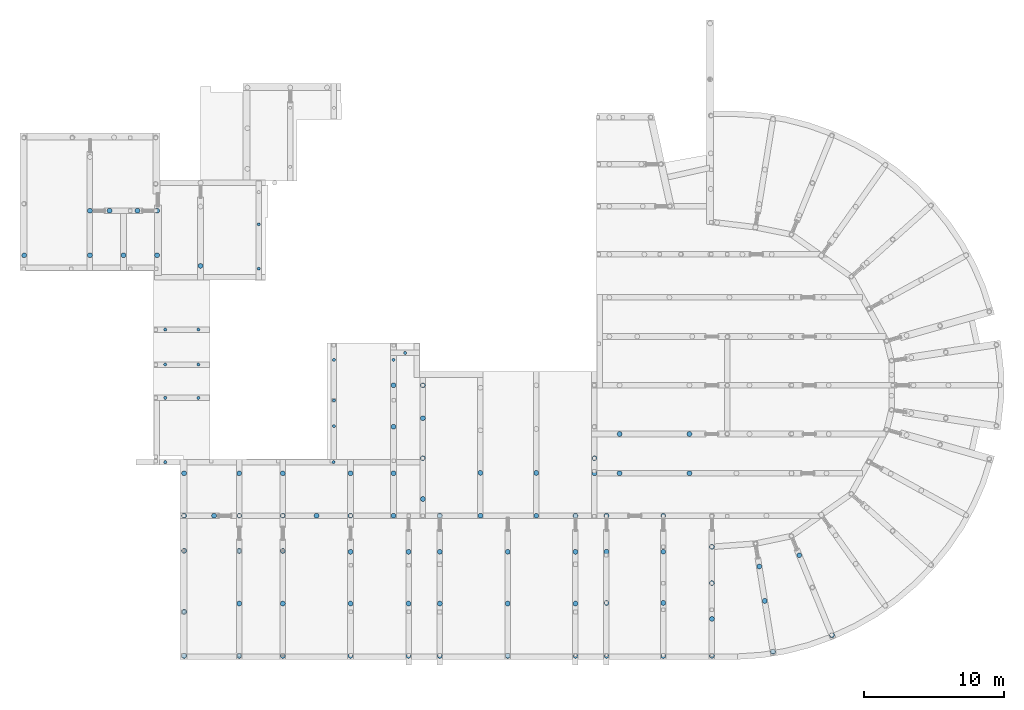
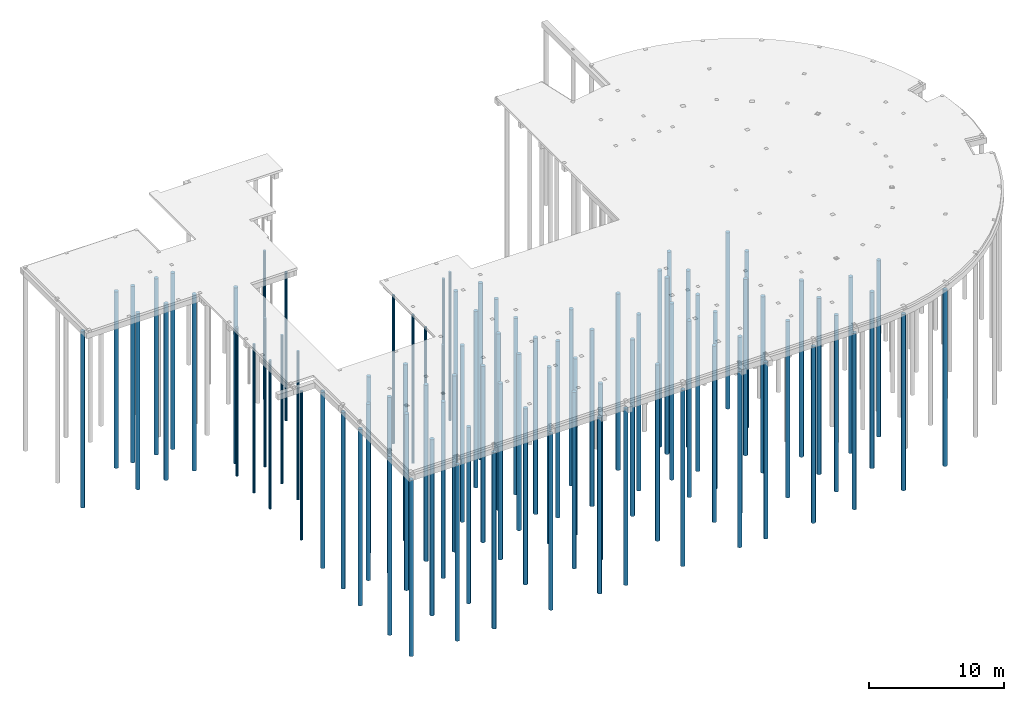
# One storey, part 1 of 22: 95 piles.
"""IFC2X3 building model written with IfcOpenShell, lengths in millimetres."""

from ifc_helpers import new_model, si_unit, frame, origin_with_axes, origin_2d_with_axis, place, context, subcontext, project, spatial, circle, extrude, clip, halfspace, material, element, save


model = new_model("IFC2X3")

# Units and contexts
model_context = context("Model", 3, precision=1e-05, world=origin_with_axes())
body_context = subcontext(model_context, "Body", "Model", "MODEL_VIEW")
ifc_project = project(units=[si_unit("LENGTHUNIT", "METRE", prefix="MILLI"), si_unit("AREAUNIT", "SQUARE_METRE"), si_unit("VOLUMEUNIT", "CUBIC_METRE"), si_unit("MASSUNIT", "GRAM", prefix="KILO"), si_unit("TIMEUNIT", "SECOND"), si_unit("PLANEANGLEUNIT", "RADIAN"), si_unit("SOLIDANGLEUNIT", "STERADIAN"), si_unit("THERMODYNAMICTEMPERATUREUNIT", "DEGREE_CELSIUS"), si_unit("LUMINOUSINTENSITYUNIT", "LUMEN")], contexts=[model_context])

# Site, building, storey
site_placement = place(None, origin_with_axes())
site = spatial("IfcSite", under=ifc_project, at=site_placement, Name="Undefined", CompositionType="ELEMENT")
building_placement = place(site_placement, origin_with_axes())
building = spatial("IfcBuilding", under=site, at=building_placement, Name="Undefined", CompositionType="ELEMENT")
storey_placement = place(building_placement, origin_with_axes())
storey = spatial("IfcBuildingStorey", under=building, at=storey_placement, Name="Undefined", CompositionType="ELEMENT", Elevation=0.0)

# Piles
ifc_material = material(Name="CONCRETE/C28/35(prefab)")
for number, where, z_axis, x_axis in (
    (1, (40940.6663505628, 13316.3922008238, -770.0), (0.0, 1.0, 0.0), (0.0, 0.0, -1.0)),
    (2, (13706.4895711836, 10273.6240965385, -770.0), (1.0, 0.0, 0.0), (0.0, 0.0, -1.0)),
    (3, (7220.94639853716, 28925.9277843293, -770.0), (-2.34999999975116e-06, 0.999999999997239, 0.0), (0.0, 0.0, -1.0)),
    (4, (108.648211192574, 28925.947344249, -770.0), (-1.13299999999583e-06, 0.999999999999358, 0.0), (0.0, 0.0, -1.0)),
    (5, (9625.00076344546, 32118.3665420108, -770.0), (0.0, 1.0, 0.0), (0.0, 0.0, -1.0)),
    (6, (9625.00076344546, 28925.9471468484, -770.0), (0.0, 1.0, 0.0), (0.0, 0.0, -1.0)),
    (7, (4816.92012416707, 28925.9409927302, -770.0), (-1.13299999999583e-06, 0.999999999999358, 0.0), (0.0, 0.0, -1.0)),
    (8, (4816.91618448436, 32115.96276371, -770.0), (-1.13299999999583e-06, 0.999999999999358, 0.0), (0.0, 0.0, -1.0)),
    (9, (6220.96083899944, 32115.9710291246, -770.0), (-0.999999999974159, -7.18899999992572e-06, 0.0), (0.0, 0.0, -1.0)),
    (10, (8220.96083889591, 32115.9854071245, -770.0), (-0.999999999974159, -7.18899999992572e-06, 0.0), (0.0, 0.0, -1.0)),
    (11, (12736.0939629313, 28165.5649974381, -770.0), (0.0, 1.0, 0.0), (0.0, 0.0, -1.0)),
):
    element("IfcPile", number, at=place(storey_placement, frame(where, z_axis=z_axis, x_axis=x_axis)), inside=storey, material=ifc_material, Name="FUNDERINGSPAAL", ConstructionType="NOTDEFINED", PredefinedType="NOTDEFINED", context=body_context, shape_type="Clipping", body=[
        clip(extrude(circle(Radius=175.0, at=origin_2d_with_axis()), frame((15900.0, 0.0, 0.0), z_axis=(-1.0, 0.0, 0.0), x_axis=(0.0, -1.0, 0.0)), (0.0, 0.0, 1.0), 15900.0), halfspace(frame((0.0, 175.0000000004, -175.000000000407), z_axis=(-1.0, 0.0, 0.0), x_axis=(0.0, 0.0, 1.0)), False)),
    ])
for number, where, z_axis, x_axis in (
    (12, (16906.9431428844, 31147.108072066, -770.0), (0.0, 1.0, 0.0), (0.0, 0.0, -1.0)),
    (13, (16906.9433687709, 27965.608072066, -770.0), (0.0, 1.0, 0.0), (0.0, 0.0, -1.0)),
    (14, (12580.0000553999, 23601.4324289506, -770.0), (-1.0, 0.0, 0.0), (0.0, 0.0, -1.0)),
    (15, (10209.9999446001, 23601.4317700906, -770.0), (-1.0, 0.0, 0.0), (0.0, 0.0, -1.0)),
    (16, (12580.0007503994, 21101.4324289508, -770.0), (-1.0, 0.0, 0.0), (0.0, 0.0, -1.0)),
    (17, (10210.0006395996, 21101.4317700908, -770.0), (-1.0, 0.0, 0.0), (0.0, 0.0, -1.0)),
    (18, (12580.0014142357, 18713.5303598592, -770.0), (-1.0, 0.0, 0.0), (0.0, 0.0, -1.0)),
    (19, (10210.0013034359, 18713.5297009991, -770.0), (-1.0, 0.0, 0.0), (0.0, 0.0, -1.0)),
    (20, (10210.0013034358, 14109.7887526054, -770.0), (-1.0, 0.0, 0.0), (0.0, 0.0, -1.0)),
):
    element("IfcPile", number, at=place(storey_placement, frame(where, z_axis=z_axis, x_axis=x_axis)), inside=storey, material=ifc_material, Name="FUNDERINGSPAAL", ConstructionType="NOTDEFINED", PredefinedType="NOTDEFINED", context=body_context, shape_type="Clipping", body=[
        clip(extrude(circle(Radius=109.5, at=origin_2d_with_axis()), frame((13400.0, 0.0, 0.0), z_axis=(-1.0, 0.0, 0.0), x_axis=(0.0, -1.0, 0.0)), (0.0, 0.0, 1.0), 13400.0), halfspace(frame((0.0, 109.500000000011, -109.500000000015), z_axis=(-1.0, 0.0, 0.0), x_axis=(0.0, 0.0, 1.0)), False)),
    ])
for number, where, z_axis, x_axis in (
    (21, (11561.5104842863, 3388.39862614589, -770.0), (0.0, -1.0, 0.0), (0.0, 0.0, -1.0)),
    (22, (11561.5104842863, 236.121540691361, -770.0), (0.0, -1.0, 0.0), (0.0, 0.0, -1.0)),
    (23, (11561.5104842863, 7760.03997968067, -770.0), (0.0, -1.0, 0.0), (0.0, 0.0, -1.0)),
    (24, (11561.5104842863, 10274.3503473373, -770.0), (0.0, -1.0, 0.0), (0.0, 0.0, -1.0)),
    (25, (11561.5104842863, 13313.6503473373, -770.0), (0.0, -1.0, 0.0), (0.0, 0.0, -1.0)),
    (26, (15506.5104842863, 7753.87356068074, -770.0), (0.0, 1.0, 0.0), (0.0, 0.0, -1.0)),
    (27, (18632.6948333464, 7753.87356068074, -770.0), (0.0, 1.0, 0.0), (0.0, 0.0, -1.0)),
):
    element("IfcPile", number, at=place(storey_placement, frame(where, z_axis=z_axis, x_axis=x_axis)), inside=storey, material=ifc_material, Name="FUNDERINGSPAAL", ConstructionType="NOTDEFINED", PredefinedType="NOTDEFINED", context=body_context, shape_type="Clipping", body=[
        clip(extrude(circle(Radius=175.0, at=origin_2d_with_axis()), frame((15900.0, 0.0, 0.0), z_axis=(-1.0, 0.0, 0.0), x_axis=(0.0, -1.0, 0.0)), (0.0, 0.0, 1.0), 15900.0), halfspace(frame((0.0, 175.0000000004, -175.000000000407), z_axis=(-1.0, 0.0, 0.0), x_axis=(0.0, 0.0, 1.0)), False)),
    ])
pile_1_placement = place(storey_placement, frame((15506.5104288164, 10273.6240965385, -770.0), z_axis=(1.0, 0.0, 0.0), x_axis=(0.0, 0.0, -1.0)))
element("IfcPile", 28, at=pile_1_placement, inside=storey, material=ifc_material, Name="FUNDERINGSPAAL", ConstructionType="NOTDEFINED", PredefinedType="NOTDEFINED", context=body_context, shape_type="Clipping", body=[
    clip(extrude(circle(Radius=175.0, at=origin_2d_with_axis()), frame((15900.0, 0.0, 0.0), z_axis=(-1.0, 0.0, 0.0), x_axis=(0.0, -1.0, 0.0)), (0.0, 0.0, 1.0), 15900.0), halfspace(frame((0.0, 175.0, -295.0), z_axis=(-1.0, 0.0, 0.0), x_axis=(0.0, 0.0, 1.0)), False)),
])
for number, where, z_axis, x_axis in (
    (29, (18632.710848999, 10273.6240965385, -770.0), (1.0, 0.0, 0.0), (0.0, 0.0, -1.0)),
    (30, (23484.8462249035, 10273.6240965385, -770.0), (1.0, 0.0, 0.0), (0.0, 0.0, -1.0)),
    (31, (26557.145707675, 10273.6240965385, -770.0), (1.0, 0.0, 0.0), (0.0, 0.0, -1.0)),
    (32, (21050.0, 10273.6240965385, -770.0), (1.0, 0.0, 0.0), (0.0, 0.0, -1.0)),
    (33, (23479.8341918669, 3985.68914714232, -770.0), (0.0, 1.0, 0.0), (0.0, 0.0, -1.0)),
    (34, (27634.6461376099, 3985.68921353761, -770.0), (0.0, 1.0, 0.0), (0.0, 0.0, -1.0)),
    (35, (29874.5237358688, 3985.70051596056, -770.0), (-5.04599999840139e-06, 0.999999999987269, 0.0), (0.0, 0.0, -1.0)),
    (36, (18632.6948333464, 3985.68914714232, -770.0), (0.0, 1.0, 0.0), (0.0, 0.0, -1.0)),
    (37, (15506.5104842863, 3985.68914714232, -770.0), (0.0, 1.0, 0.0), (0.0, 0.0, -1.0)),
    (38, (34741.2811446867, 3985.76326380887, -770.0), (0.0, 1.0, 0.0), (0.0, 0.0, -1.0)),
    (39, (39587.2860565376, 3985.71876095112, -770.0), (-1.13299999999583e-06, 0.999999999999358, 0.0), (0.0, 0.0, -1.0)),
    (40, (23479.8341918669, 7689.23626611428, -770.0), (0.0, 1.0, 0.0), (0.0, 0.0, -1.0)),
    (41, (27634.6460783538, 7689.23626616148, -770.0), (0.0, 1.0, 0.0), (0.0, 0.0, -1.0)),
    (42, (29874.5050476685, 7689.26715146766, -770.0), (-5.04599999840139e-06, 0.999999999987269, 0.0), (0.0, 0.0, -1.0)),
    (43, (34741.2811446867, 7689.31165429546, -770.0), (0.0, 1.0, 0.0), (0.0, 0.0, -1.0)),
    (44, (39587.2817493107, 7689.2671514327, -770.0), (-1.13299999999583e-06, 0.999999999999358, 0.0), (0.0, 0.0, -1.0)),
):
    element("IfcPile", number, at=place(storey_placement, frame(where, z_axis=z_axis, x_axis=x_axis)), inside=storey, material=ifc_material, Name="FUNDERINGSPAAL", ConstructionType="NOTDEFINED", PredefinedType="NOTDEFINED", context=body_context, shape_type="Clipping", body=[
        clip(extrude(circle(Radius=175.0, at=origin_2d_with_axis()), frame((15900.0, 0.0, 0.0), z_axis=(-1.0, 0.0, 0.0), x_axis=(0.0, -1.0, 0.0)), (0.0, 0.0, 1.0), 15900.0), halfspace(frame((0.0, 175.0000000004, -175.000000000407), z_axis=(-1.0, 0.0, 0.0), x_axis=(0.0, 0.0, 1.0)), False)),
    ])
pile_2_placement = place(storey_placement, frame((15506.5104288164, 236.121540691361, -770.0), z_axis=(1.0, 0.0, 0.0), x_axis=(0.0, 0.0, -1.0)))
element("IfcPile", 45, at=pile_2_placement, inside=storey, material=ifc_material, Name="FUNDERINGSPAAL", ConstructionType="NOTDEFINED", PredefinedType="NOTDEFINED", context=body_context, shape_type="Clipping", body=[
    clip(extrude(circle(Radius=175.0, at=origin_2d_with_axis()), frame((15900.0, 0.0, 0.0), z_axis=(-1.0, 0.0, 0.0), x_axis=(0.0, -1.0, 0.0)), (0.0, 0.0, 1.0), 15900.0), halfspace(frame((0.0, 175.0, -295.0), z_axis=(-1.0, 0.0, 0.0), x_axis=(0.0, 0.0, 1.0)), False)),
])
for number, where, z_axis, x_axis in (
    (46, (41807.2867865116, 7691.62700395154, -770.0), (0.0, 1.0, 0.0), (0.0, 0.0, -1.0)),
    (47, (41807.2866436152, 4027.62122230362, -770.0), (0.0, 1.0, 0.0), (0.0, 0.0, -1.0)),
    (48, (45873.9582229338, 4027.62593990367, -770.0), (0.0, 1.0, 0.0), (0.0, 0.0, -1.0)),
    (49, (45873.9582229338, 7695.43260664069, -770.0), (0.0, 1.0, 0.0), (0.0, 0.0, -1.0)),
    (50, (18632.6947778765, 236.121540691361, -770.0), (1.0, 0.0, 0.0), (0.0, 0.0, -1.0)),
    (51, (23479.834136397, 236.121540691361, -770.0), (1.0, 0.0, 0.0), (0.0, 0.0, -1.0)),
    (52, (27634.6461397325, 236.121540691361, -770.0), (1.0, 0.0, 0.0), (0.0, 0.0, -1.0)),
    (53, (29874.5418438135, 236.121540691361, -770.0), (1.0, 0.0, 0.0), (0.0, 0.0, -1.0)),
    (54, (34741.2810892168, 236.121540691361, -770.0), (1.0, 0.0, 0.0), (0.0, 0.0, -1.0)),
    (55, (39587.290187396, 236.121540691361, -770.0), (1.0, 0.0, 0.0), (0.0, 0.0, -1.0)),
    (56, (41807.2864461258, 236.121540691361, -770.0), (1.0, 0.0, 0.0), (0.0, 0.0, -1.0)),
    (57, (45873.9581674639, 236.121540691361, -770.0), (1.0, 0.0, 0.0), (0.0, 0.0, -1.0)),
    (58, (49361.6195290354, 236.121540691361, -770.0), (1.0, 0.0, 0.0), (0.0, 0.0, -1.0)),
    (59, (53734.4823897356, 531.575701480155, -770.000000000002), (0.987436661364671, 0.158015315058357, 0.0), (0.0, 0.0, -1.0)),
    (60, (57961.6101744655, 1715.62957213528, -770.000000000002), (0.94107199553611, 0.338206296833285, 0.0), (0.0, 0.0, -1.0)),
    (61, (49361.6195845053, 8046.16119178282, -770.000000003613), (0.0, 1.0, 0.0), (0.0, 0.0, -1.0)),
    (62, (49361.6195845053, 5453.12593990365, -770.000000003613), (0.0, 1.0, 0.0), (0.0, 0.0, -1.0)),
    (63, (49361.6195845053, 2887.0963261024, -770.000000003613), (0.0, 1.0, 0.0), (0.0, 0.0, -1.0)),
    (64, (55611.5821221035, 7443.71216630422, -770.0), (-0.377638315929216, 0.925953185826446, 0.0), (0.0, 0.0, -1.0)),
    (65, (53145.2679712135, 4171.4018791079, -770.0), (-0.15966535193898, 0.987171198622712, 0.0), (0.0, 0.0, -1.0)),
    (66, (52746.1648885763, 6638.95707299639, -770.0), (-0.15966535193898, 0.987171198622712, 0.0), (0.0, 0.0, -1.0)),
    (67, (29873.8162459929, 10273.6240965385, -770.0), (1.0, 0.0, 0.0), (0.0, 0.0, -1.0)),
    (68, (36780.7000625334, 10273.6240965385, -770.0), (1.0, 0.0, 0.0), (0.0, 0.0, -1.0)),
    (69, (39586.5962447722, 10273.6240965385, -770.0), (1.0, 0.0, 0.0), (0.0, 0.0, -1.0)),
    (70, (41807.2859170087, 10273.6240965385, -770.0), (1.0, 0.0, 0.0), (0.0, 0.0, -1.0)),
    (71, (45873.9582229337, 10273.6240965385, -770.0), (1.0, 0.0, 0.0), (0.0, 0.0, -1.0)),
):
    element("IfcPile", number, at=place(storey_placement, frame(where, z_axis=z_axis, x_axis=x_axis)), inside=storey, material=ifc_material, Name="FUNDERINGSPAAL", ConstructionType="NOTDEFINED", PredefinedType="NOTDEFINED", context=body_context, shape_type="Clipping", body=[
        clip(extrude(circle(Radius=175.0, at=origin_2d_with_axis()), frame((15900.0, 0.0, 0.0), z_axis=(-1.0, 0.0, 0.0), x_axis=(0.0, -1.0, 0.0)), (0.0, 0.0, 1.0), 15900.0), halfspace(frame((0.0, 175.0000000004, -175.000000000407), z_axis=(-1.0, 0.0, 0.0), x_axis=(0.0, 0.0, 1.0)), False)),
    ])
for number, where, z_axis, x_axis in (
    (72, (22288.9995208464, 18538.2658141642, -770.0), (0.0, 1.0, 0.0), (0.0, 0.0, -1.0)),
    (73, (22270.0, 14109.7887526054, -770.0), (-1.0, 0.0, 0.0), (0.0, 0.0, -1.0)),
):
    element("IfcPile", number, at=place(storey_placement, frame(where, z_axis=z_axis, x_axis=x_axis)), inside=storey, material=ifc_material, Name="FUNDERINGSPAAL", ConstructionType="NOTDEFINED", PredefinedType="NOTDEFINED", context=body_context, shape_type="Clipping", body=[
        clip(extrude(circle(Radius=109.5, at=origin_2d_with_axis()), frame((13400.0, 0.0, 0.0), z_axis=(-1.0, 0.0, 0.0), x_axis=(0.0, -1.0, 0.0)), (0.0, 0.0, 1.0), 13400.0), halfspace(frame((0.0, 109.500000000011, -109.500000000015), z_axis=(-1.0, 0.0, 0.0), x_axis=(0.0, 0.0, 1.0)), False)),
    ])
for number, where, z_axis, x_axis in (
    (74, (15506.5104842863, 13313.6503473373, -770.0), (0.0, 1.0, 0.0), (0.0, 0.0, -1.0)),
    (75, (23479.8341918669, 13313.6503473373, -770.0), (0.0, 1.0, 0.0), (0.0, 0.0, -1.0)),
    (76, (26557.145707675, 13313.6503473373, -770.0), (0.0, 1.0, 0.0), (0.0, 0.0, -1.0)),
    (77, (18632.6948333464, 13313.6901763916, -770.0), (0.0, 1.0, 0.0), (0.0, 0.0, -1.0)),
):
    element("IfcPile", number, at=place(storey_placement, frame(where, z_axis=z_axis, x_axis=x_axis)), inside=storey, material=ifc_material, Name="FUNDERINGSPAAL", ConstructionType="NOTDEFINED", PredefinedType="NOTDEFINED", context=body_context, shape_type="Clipping", body=[
        clip(extrude(circle(Radius=175.0, at=origin_2d_with_axis()), frame((15900.0, 0.0, 0.0), z_axis=(-1.0, 0.0, 0.0), x_axis=(0.0, -1.0, 0.0)), (0.0, 0.0, 1.0), 15900.0), halfspace(frame((0.0, 175.0000000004, -175.000000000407), z_axis=(-1.0, 0.0, 0.0), x_axis=(0.0, 0.0, 1.0)), False)),
    ])
for number, where, z_axis, x_axis in (
    (78, (22288.9995208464, 16688.2658141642, -770.0), (0.0, 1.0, 0.0), (0.0, 0.0, -1.0)),
    (79, (22288.9995208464, 21438.2658141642, -770.0), (0.0, 1.0, 0.0), (0.0, 0.0, -1.0)),
    (80, (26557.145707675, 21438.2658141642, -770.0), (0.0, 1.0, 0.0), (0.0, 0.0, -1.0)),
    (81, (27395.5730908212, 21935.7959517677, -770.0), (-1.0, 0.0, 0.0), (0.0, 0.0, -1.0)),
):
    element("IfcPile", number, at=place(storey_placement, frame(where, z_axis=z_axis, x_axis=x_axis)), inside=storey, material=ifc_material, Name="FUNDERINGSPAAL", ConstructionType="NOTDEFINED", PredefinedType="NOTDEFINED", context=body_context, shape_type="Clipping", body=[
        clip(extrude(circle(Radius=109.5, at=origin_2d_with_axis()), frame((13400.0, 0.0, 0.0), z_axis=(-1.0, 0.0, 0.0), x_axis=(0.0, -1.0, 0.0)), (0.0, 0.0, 1.0), 13400.0), halfspace(frame((0.0, 109.500000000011, -109.500000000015), z_axis=(-1.0, 0.0, 0.0), x_axis=(0.0, 0.0, 1.0)), False)),
    ])
for number, where, z_axis, x_axis in (
    (82, (26557.145707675, 19615.7894134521, -770.0), (0.0, 1.0, 0.0), (0.0, 0.0, -1.0)),
    (83, (26557.145707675, 16645.7901000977, -770.0), (0.0, 1.0, 0.0), (0.0, 0.0, -1.0)),
    (84, (28660.6949783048, 19616.0597289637, -770.0), (0.0, 1.0, 0.0), (0.0, 0.0, -1.0)),
    (85, (28660.6949783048, 14397.3202504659, -770.0), (0.0, 1.0, 0.0), (0.0, 0.0, -1.0)),
    (86, (28660.6949783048, 17257.3202504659, -770.0), (0.0, 1.0, 0.0), (0.0, 0.0, -1.0)),
    (87, (28660.6949783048, 11473.6240965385, -770.0), (0.0, 1.0, 0.0), (0.0, 0.0, -1.0)),
    (88, (32783.0009460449, 10273.6240965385, -770.0), (1.0, 0.0, 0.0), (0.0, 0.0, -1.0)),
    (89, (32780.7005813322, 13343.6240965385, -770.0), (0.0, 1.0, 0.0), (0.0, 0.0, -1.0)),
    (90, (36780.7000625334, 13343.6240965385, -770.0), (0.0, 1.0, 0.0), (0.0, 0.0, -1.0)),
    (91, (40940.66632354, 14397.3024735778, -770.0), (0.0, 1.0, 0.0), (0.0, 0.0, -1.0)),
    (92, (47749.9999997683, 16127.9599047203, -770.0), (-1.0, 0.0, 0.0), (0.0, 0.0, -1.0)),
    (93, (47749.9999997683, 13316.4203283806, -770.0), (-1.0, 0.0, 0.0), (0.0, 0.0, -1.0)),
    (94, (42749.9999997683, 16127.9599047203, -770.0), (-1.0, 0.0, 0.0), (0.0, 0.0, -1.0)),
    (95, (42749.9999997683, 13316.4203283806, -770.0), (-1.0, 0.0, 0.0), (0.0, 0.0, -1.0)),
):
    element("IfcPile", number, at=place(storey_placement, frame(where, z_axis=z_axis, x_axis=x_axis)), inside=storey, material=ifc_material, Name="FUNDERINGSPAAL", ConstructionType="NOTDEFINED", PredefinedType="NOTDEFINED", context=body_context, shape_type="Clipping", body=[
        clip(extrude(circle(Radius=175.0, at=origin_2d_with_axis()), frame((15900.0, 0.0, 0.0), z_axis=(-1.0, 0.0, 0.0), x_axis=(0.0, -1.0, 0.0)), (0.0, 0.0, 1.0), 15900.0), halfspace(frame((0.0, 175.0000000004, -175.000000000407), z_axis=(-1.0, 0.0, 0.0), x_axis=(0.0, 0.0, 1.0)), False)),
    ])

save(model, "model.ifc")
